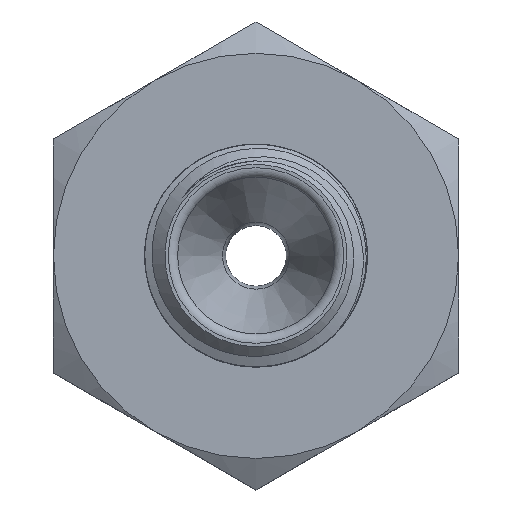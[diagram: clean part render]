
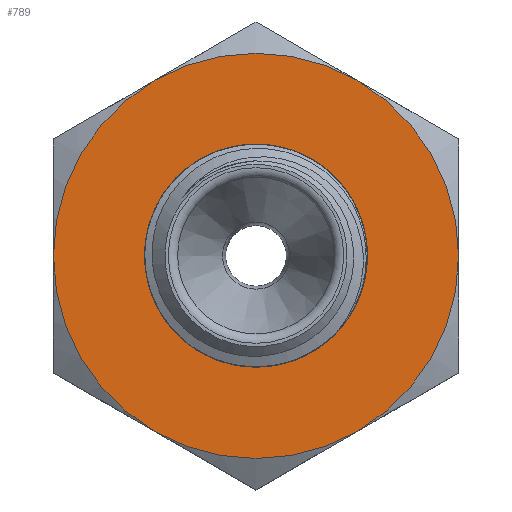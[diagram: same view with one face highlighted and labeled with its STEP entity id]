
A CAD part, top view. The second image highlights one B-rep face of the part: STEP entity #789.
In plain terms, the highlighted planar face has unit normal (0, 0, 1).
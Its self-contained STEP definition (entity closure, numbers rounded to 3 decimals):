
#113=CIRCLE('',#830,10.);
#114=CIRCLE('',#832,10.);
#115=CIRCLE('',#834,10.);
#116=CIRCLE('',#836,10.);
#117=CIRCLE('',#838,10.);
#118=CIRCLE('',#840,10.);
#119=CIRCLE('',#842,5.5);
#215=ORIENTED_EDGE('',*,*,#326,.T.);
#216=ORIENTED_EDGE('',*,*,#324,.F.);
#217=ORIENTED_EDGE('',*,*,#325,.F.);
#218=ORIENTED_EDGE('',*,*,#320,.F.);
#219=ORIENTED_EDGE('',*,*,#321,.F.);
#220=ORIENTED_EDGE('',*,*,#322,.F.);
#221=ORIENTED_EDGE('',*,*,#323,.F.);
#320=EDGE_CURVE('',#376,#356,#113,.T.);
#321=EDGE_CURVE('',#374,#376,#114,.T.);
#322=EDGE_CURVE('',#371,#374,#115,.T.);
#323=EDGE_CURVE('',#366,#371,#116,.T.);
#324=EDGE_CURVE('',#361,#366,#117,.T.);
#325=EDGE_CURVE('',#356,#361,#118,.T.);
#326=EDGE_CURVE('',#377,#377,#119,.T.);
#356=VERTEX_POINT('',#1065);
#361=VERTEX_POINT('',#1083);
#366=VERTEX_POINT('',#1102);
#371=VERTEX_POINT('',#1120);
#374=VERTEX_POINT('',#1136);
#376=VERTEX_POINT('',#1149);
#377=VERTEX_POINT('',#1176);
#458=EDGE_LOOP('',(#215));
#459=EDGE_LOOP('',(#216,#217,#218,#219,#220,#221));
#502=FACE_BOUND('',#458,.T.);
#503=FACE_BOUND('',#459,.T.);
#535=PLANE('',#841);
#789=ADVANCED_FACE('',(#502,#503),#535,.F.);
#830=AXIS2_PLACEMENT_3D('',#1163,#948,#949);
#832=AXIS2_PLACEMENT_3D('',#1165,#952,#953);
#834=AXIS2_PLACEMENT_3D('',#1167,#956,#957);
#836=AXIS2_PLACEMENT_3D('',#1169,#960,#961);
#838=AXIS2_PLACEMENT_3D('',#1171,#964,#965);
#840=AXIS2_PLACEMENT_3D('',#1173,#968,#969);
#841=AXIS2_PLACEMENT_3D('',#1174,#970,#971);
#842=AXIS2_PLACEMENT_3D('',#1175,#972,#973);
#948=DIRECTION('',(0.,0.,-1.));
#949=DIRECTION('',(-1.,0.,0.));
#952=DIRECTION('',(0.,0.,-1.));
#953=DIRECTION('',(-1.,0.,0.));
#956=DIRECTION('',(0.,0.,-1.));
#957=DIRECTION('',(-1.,0.,0.));
#960=DIRECTION('',(0.,0.,-1.));
#961=DIRECTION('',(-1.,0.,0.));
#964=DIRECTION('',(0.,0.,-1.));
#965=DIRECTION('',(-1.,0.,0.));
#968=DIRECTION('',(0.,0.,-1.));
#969=DIRECTION('',(-1.,0.,0.));
#970=DIRECTION('',(0.,0.,-1.));
#971=DIRECTION('',(-1.,0.,0.));
#972=DIRECTION('',(0.,0.,-1.));
#973=DIRECTION('',(-1.,0.,0.));
#1065=CARTESIAN_POINT('',(-5.,-8.66,8.));
#1083=CARTESIAN_POINT('',(-10.,0.,8.));
#1102=CARTESIAN_POINT('',(-5.,8.66,8.));
#1120=CARTESIAN_POINT('',(5.,8.66,8.));
#1136=CARTESIAN_POINT('',(10.,0.,8.));
#1149=CARTESIAN_POINT('',(5.,-8.66,8.));
#1163=CARTESIAN_POINT('',(0.,0.,8.));
#1165=CARTESIAN_POINT('',(0.,0.,8.));
#1167=CARTESIAN_POINT('',(0.,0.,8.));
#1169=CARTESIAN_POINT('',(0.,0.,8.));
#1171=CARTESIAN_POINT('',(0.,0.,8.));
#1173=CARTESIAN_POINT('',(0.,0.,8.));
#1174=CARTESIAN_POINT('',(0.,0.,8.));
#1175=CARTESIAN_POINT('',(0.,0.,8.));
#1176=CARTESIAN_POINT('',(-5.5,0.,8.));
